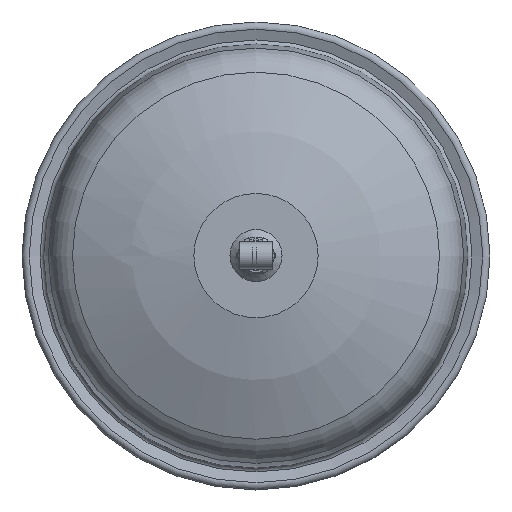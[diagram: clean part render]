
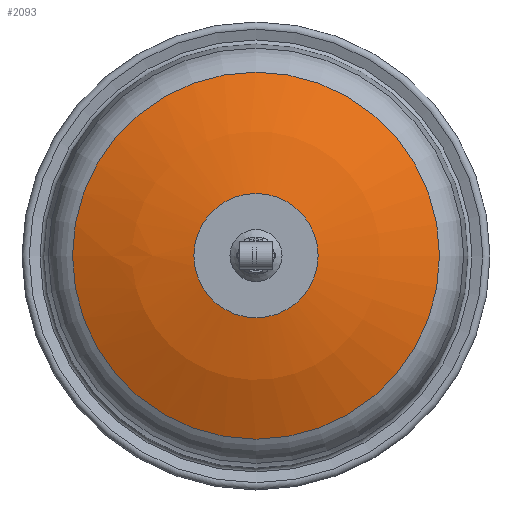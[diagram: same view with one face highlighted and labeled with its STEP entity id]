
A CAD part, top view. The second image highlights one B-rep face of the part: STEP entity #2093.
In plain terms, the highlighted spherical face has radius 294.55 mm.
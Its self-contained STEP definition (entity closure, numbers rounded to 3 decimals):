
#96=SPHERICAL_SURFACE('',#2258,294.55);
#638=FACE_OUTER_BOUND('',#747,.T.);
#747=EDGE_LOOP('',(#1549,#1550,#1551,#1552,#1553,#1554));
#882=CIRCLE('',#2255,128.62);
#883=CIRCLE('',#2256,128.62);
#885=CIRCLE('',#2259,43.565);
#886=CIRCLE('',#2260,43.565);
#887=CIRCLE('',#2261,294.55);
#982=VERTEX_POINT('',#3186);
#983=VERTEX_POINT('',#3187);
#984=VERTEX_POINT('',#3192);
#985=VERTEX_POINT('',#3193);
#1200=EDGE_CURVE('',#982,#983,#882,.T.);
#1201=EDGE_CURVE('',#983,#982,#883,.T.);
#1203=EDGE_CURVE('',#984,#985,#885,.T.);
#1204=EDGE_CURVE('',#985,#984,#886,.T.);
#1205=EDGE_CURVE('',#985,#983,#887,.T.);
#1549=ORIENTED_EDGE('',*,*,#1203,.F.);
#1550=ORIENTED_EDGE('',*,*,#1204,.F.);
#1551=ORIENTED_EDGE('',*,*,#1205,.T.);
#1552=ORIENTED_EDGE('',*,*,#1201,.T.);
#1553=ORIENTED_EDGE('',*,*,#1200,.T.);
#1554=ORIENTED_EDGE('',*,*,#1205,.F.);
#2093=ADVANCED_FACE('',(#638),#96,.T.);
#2255=AXIS2_PLACEMENT_3D('',#3188,#2523,#2524);
#2256=AXIS2_PLACEMENT_3D('',#3189,#2525,#2526);
#2258=AXIS2_PLACEMENT_3D('',#3191,#2529,#2530);
#2259=AXIS2_PLACEMENT_3D('',#3194,#2531,#2532);
#2260=AXIS2_PLACEMENT_3D('',#3195,#2533,#2534);
#2261=AXIS2_PLACEMENT_3D('',#3196,#2535,#2536);
#2523=DIRECTION('center_axis',(0.,0.,1.));
#2524=DIRECTION('ref_axis',(1.,0.,0.));
#2525=DIRECTION('center_axis',(0.,0.,1.));
#2526=DIRECTION('ref_axis',(1.,0.,0.));
#2529=DIRECTION('center_axis',(0.,0.,1.));
#2530=DIRECTION('ref_axis',(1.,0.,0.));
#2531=DIRECTION('center_axis',(0.,0.,1.));
#2532=DIRECTION('ref_axis',(1.,0.,0.));
#2533=DIRECTION('center_axis',(0.,0.,1.));
#2534=DIRECTION('ref_axis',(1.,0.,0.));
#2535=DIRECTION('center_axis',(0.,-1.,0.));
#2536=DIRECTION('ref_axis',(-1.,0.,0.));
#3186=CARTESIAN_POINT('',(128.62,0.,-46.326));
#3187=CARTESIAN_POINT('',(-128.62,0.,-46.326));
#3188=CARTESIAN_POINT('Origin',(0.,0.,-46.326));
#3189=CARTESIAN_POINT('Origin',(0.,0.,-46.326));
#3191=CARTESIAN_POINT('Origin',(0.,0.,-311.31));
#3192=CARTESIAN_POINT('',(43.565,0.,-20.));
#3193=CARTESIAN_POINT('',(-43.565,0.,-20.));
#3194=CARTESIAN_POINT('Origin',(0.,0.,-20.));
#3195=CARTESIAN_POINT('Origin',(0.,0.,-20.));
#3196=CARTESIAN_POINT('Origin',(0.,0.,-311.31));
